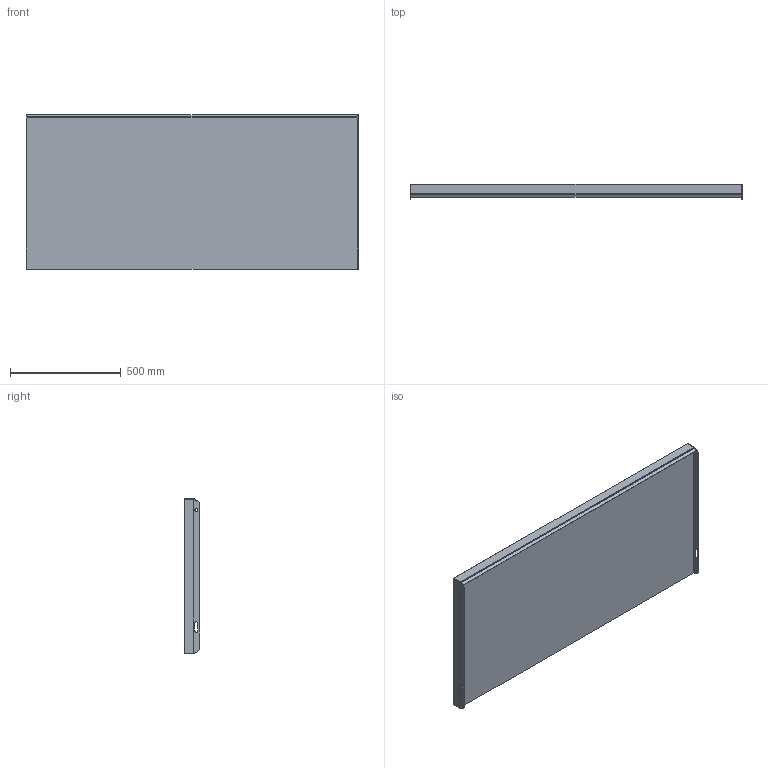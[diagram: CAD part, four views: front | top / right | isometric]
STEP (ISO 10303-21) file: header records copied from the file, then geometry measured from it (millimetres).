
FILE_DESCRIPTION (( 'STEP AP203' ), '1' );
FILE_NAME ('148815071, Plan TH6, 1500x700, vfz.STEP', '2020-10-21T13:23:12', ( '' ), ( '' ), 'SwSTEP 2.0', 'SolidWorks 2019', '' );
FILE_SCHEMA (( 'CONFIG_CONTROL_DESIGN' ));
Length unit declared in the file: millimetre
Products named in the file (4): SW0000041810; SW0000041386; SW0000041757; 148815071, Plan TH6, 1500x700, vfz
Assembly tree (4 placements, depth 2):
  148815071, Plan TH6, 1500x700, vfz
    SW0000041810
    SW0000041386  x2
    SW0000041757
Bounding box: 1500 x 70 x 697 mm (x, y, z)
Volume: 42028167.7 mm3; surface area: 2638021.1 mm2
Topology: 4 solids, 4 shells, 59 faces, 142 edges, 92 vertices
Faces by surface type: plane 45, cylinder 14
Entity records: 1693 total; most frequent: DIRECTION 221, CARTESIAN_POINT 220, ORIENTED_EDGE 206, EDGE_CURVE 103, VECTOR 87, LINE 87, AXIS2_PLACEMENT_3D 67, VERTEX_POINT 66
